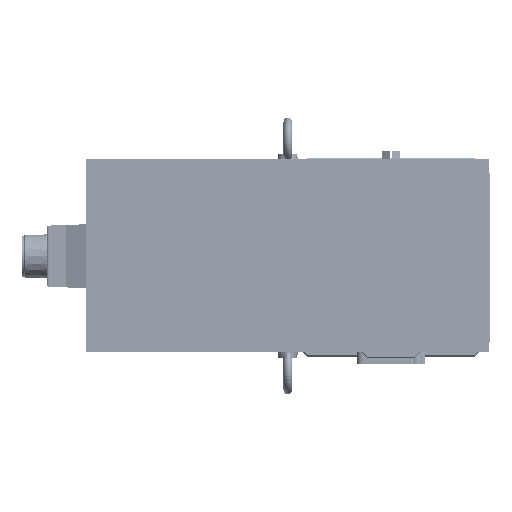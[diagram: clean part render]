
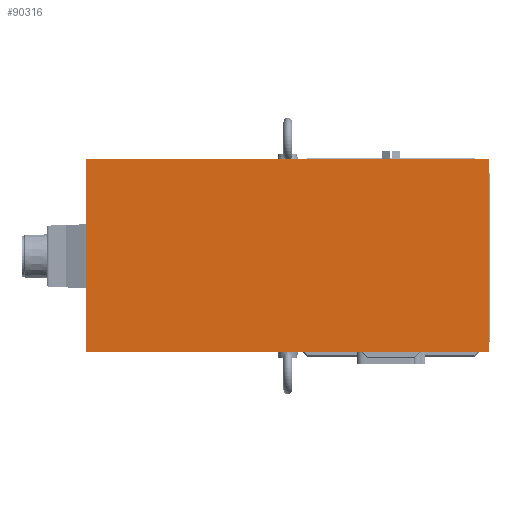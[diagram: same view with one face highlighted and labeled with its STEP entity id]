
A CAD part, top view. The second image highlights one B-rep face of the part: STEP entity #90316.
In plain terms, the highlighted planar face has unit normal (0, 0, 1).
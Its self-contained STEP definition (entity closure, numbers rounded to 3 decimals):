
#90277=CARTESIAN_POINT('',(-75.5,-77.,621.));
#90278=DIRECTION('',(0.,-1.,0.));
#90279=DIRECTION('',(-0.,0.,1.));
#90280=AXIS2_PLACEMENT_3D('',#90277,#90279,#90278);
#90281=PLANE('',#90280);
#90282=CARTESIAN_POINT('',(72.,70.5,621.));
#90283=VERTEX_POINT('',#90282);
#90284=CARTESIAN_POINT('',(-223.,70.5,621.));
#90285=VERTEX_POINT('',#90284);
#90286=CARTESIAN_POINT('',(72.,70.5,621.));
#90287=DIRECTION('',(-1.,0.,0.));
#90288=VECTOR('',#90287,295.);
#90289=LINE('',#90286,#90288);
#90290=EDGE_CURVE('',#90283,#90285,#90289,.T.);
#90291=ORIENTED_EDGE('E1',*,*,#90290,.T.);
#90292=CARTESIAN_POINT('',(-223.,-70.5,621.));
#90293=VERTEX_POINT('',#90292);
#90294=CARTESIAN_POINT('',(-223.,70.5,621.));
#90295=DIRECTION('',(0.,-1.,0.));
#90296=VECTOR('',#90295,141.);
#90297=LINE('',#90294,#90296);
#90298=EDGE_CURVE('',#90285,#90293,#90297,.T.);
#90299=ORIENTED_EDGE('E2',*,*,#90298,.T.);
#90300=CARTESIAN_POINT('',(72.,-70.5,621.));
#90301=VERTEX_POINT('',#90300);
#90302=CARTESIAN_POINT('',(-223.,-70.5,621.));
#90303=DIRECTION('',(1.,0.,0.));
#90304=VECTOR('',#90303,295.);
#90305=LINE('',#90302,#90304);
#90306=EDGE_CURVE('',#90293,#90301,#90305,.T.);
#90307=ORIENTED_EDGE('E3',*,*,#90306,.T.);
#90308=CARTESIAN_POINT('',(72.,-70.5,621.));
#90309=DIRECTION('',(0.,1.,0.));
#90310=VECTOR('',#90309,141.);
#90311=LINE('',#90308,#90310);
#90312=EDGE_CURVE('',#90301,#90283,#90311,.T.);
#90313=ORIENTED_EDGE('E4',*,*,#90312,.T.);
#90314=EDGE_LOOP('',(#90291,#90299,#90307,#90313));
#90315=FACE_OUTER_BOUND('',#90314,.T.);
#90316=ADVANCED_FACE('F1',(#90315),#90281,.T.);
